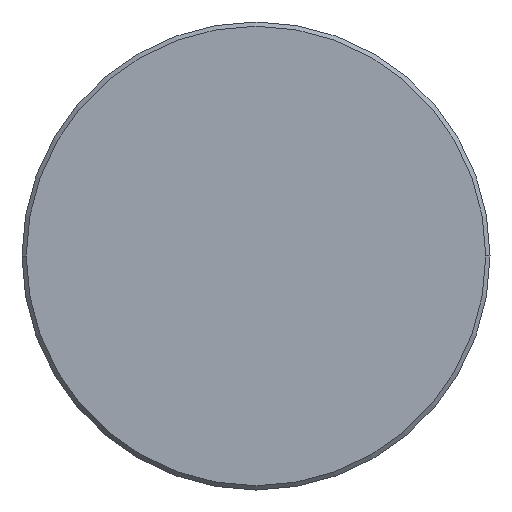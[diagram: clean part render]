
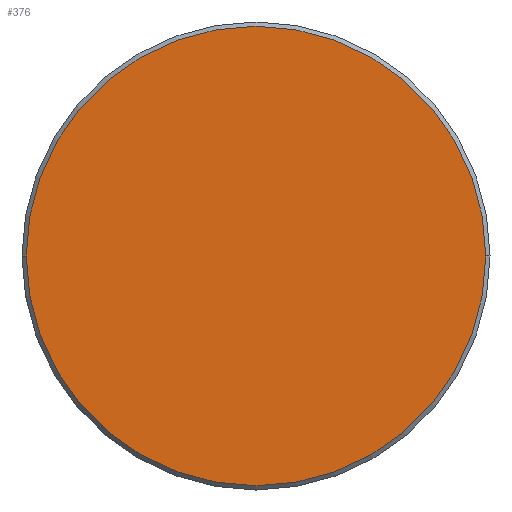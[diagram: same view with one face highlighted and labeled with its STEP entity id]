
A CAD part, left-side view. The second image highlights one B-rep face of the part: STEP entity #376.
In plain terms, the highlighted planar face has unit normal (-1, 0, 0).
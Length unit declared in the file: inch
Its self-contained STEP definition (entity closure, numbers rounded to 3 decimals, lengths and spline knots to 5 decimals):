
#16 = CARTESIAN_POINT ( 'NONE',  ( 0., -0.21475, 0. ) ) ;
#90 = ORIENTED_EDGE ( 'NONE', *, *, #259, .T. ) ;
#109 = ORIENTED_EDGE ( 'NONE', *, *, #346, .T. ) ;
#140 = CIRCLE ( 'NONE', #145, 0.21475 ) ;
#142 = VERTEX_POINT ( 'NONE', #189 ) ;
#145 = AXIS2_PLACEMENT_3D ( 'NONE', #337, #200, #292 ) ;
#159 = DIRECTION ( 'NONE',  ( 0., -1., 0. ) ) ;
#165 = DIRECTION ( 'NONE',  ( 0., -1., 0. ) ) ;
#177 = CIRCLE ( 'NONE', #265, 0.21475 ) ;
#189 = CARTESIAN_POINT ( 'NONE',  ( 0., 0.21475, 0. ) ) ;
#200 = DIRECTION ( 'NONE',  ( -1., 0., 0. ) ) ;
#231 = AXIS2_PLACEMENT_3D ( 'NONE', #312, #233, #165 ) ;
#233 = DIRECTION ( 'NONE',  ( -1., 0., 0. ) ) ;
#238 = FACE_OUTER_BOUND ( 'NONE', #349, .T. ) ;
#259 = EDGE_CURVE ( 'NONE', #372, #142, #177, .T. ) ;
#264 = PLANE ( 'NONE',  #231 ) ;
#265 = AXIS2_PLACEMENT_3D ( 'NONE', #335, #309, #159 ) ;
#292 = DIRECTION ( 'NONE',  ( 0., -1., 0. ) ) ;
#309 = DIRECTION ( 'NONE',  ( -1., 0., 0. ) ) ;
#312 = CARTESIAN_POINT ( 'NONE',  ( 0., 0., 0. ) ) ;
#335 = CARTESIAN_POINT ( 'NONE',  ( 0., 0., 0. ) ) ;
#337 = CARTESIAN_POINT ( 'NONE',  ( 0., 0., 0. ) ) ;
#346 = EDGE_CURVE ( 'NONE', #142, #372, #140, .T. ) ;
#349 = EDGE_LOOP ( 'NONE', ( #109, #90 ) ) ;
#372 = VERTEX_POINT ( 'NONE', #16 ) ;
#376 = ADVANCED_FACE ( 'NONE', ( #238 ), #264, .T. ) ;
